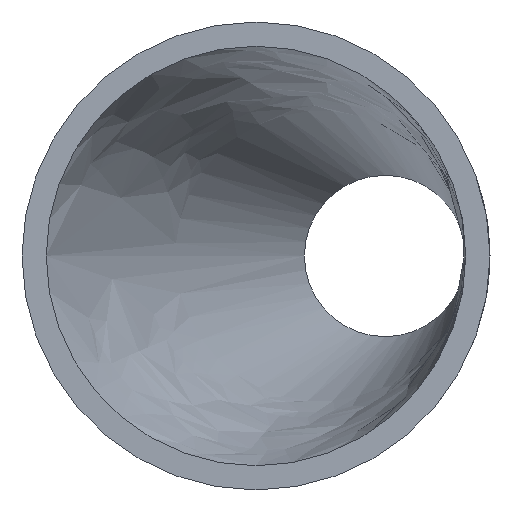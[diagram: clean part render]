
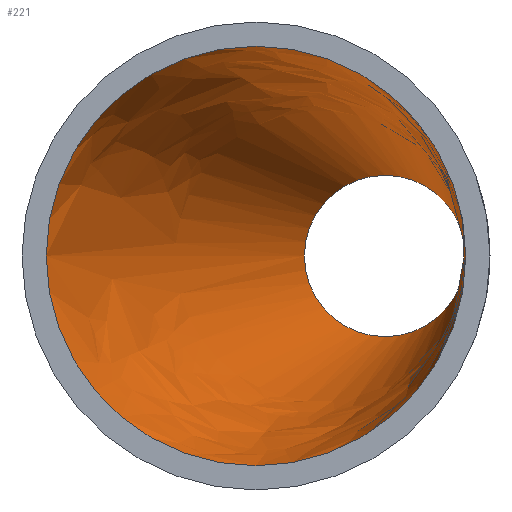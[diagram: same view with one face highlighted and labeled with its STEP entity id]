
A CAD part, left-side view. The second image highlights one B-rep face of the part: STEP entity #221.
In plain terms, the highlighted free-form (B-spline) face has degree [14, 1] with [15, 2] control points.
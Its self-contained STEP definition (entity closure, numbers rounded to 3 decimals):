
#69 = PLANE('',#70);
#70 = AXIS2_PLACEMENT_3D('',#71,#72,#73);
#71 = CARTESIAN_POINT('',(0.,0.,0.));
#72 = DIRECTION('',(1.,0.,0.));
#73 = DIRECTION('',(0.,1.,0.));
#118 = PLANE('',#119);
#119 = AXIS2_PLACEMENT_3D('',#120,#121,#122);
#120 = CARTESIAN_POINT('',(44.,-8.,0.));
#121 = DIRECTION('',(1.,0.,0.));
#122 = DIRECTION('',(0.,1.,0.));
#137 = EDGE_CURVE('',#138,#138,#140,.T.);
#138 = VERTEX_POINT('',#139);
#139 = CARTESIAN_POINT('',(0.,13.,0.));
#140 = SURFACE_CURVE('',#141,(#146,#153),.PCURVE_S1.);
#141 = CIRCLE('',#142,13.);
#142 = AXIS2_PLACEMENT_3D('',#143,#144,#145);
#143 = CARTESIAN_POINT('',(0.,0.,0.));
#144 = DIRECTION('',(1.,0.,0.));
#145 = DIRECTION('',(0.,1.,0.));
#146 = PCURVE('',#69,#147);
#147 = DEFINITIONAL_REPRESENTATION('',(#148),#152);
#148 = CIRCLE('',#149,13.);
#149 = AXIS2_PLACEMENT_2D('',#150,#151);
#150 = CARTESIAN_POINT('',(0.,0.));
#151 = DIRECTION('',(1.,0.));
#152 = ( GEOMETRIC_REPRESENTATION_CONTEXT(2) 
PARAMETRIC_REPRESENTATION_CONTEXT() REPRESENTATION_CONTEXT('2D SPACE',''
  ) );
#153 = PCURVE('',#154,#185);
#154 = B_SPLINE_SURFACE_WITH_KNOTS('',14,1,(
    (#155,#156)
    ,(#157,#158)
    ,(#159,#160)
    ,(#161,#162)
    ,(#163,#164)
    ,(#165,#166)
    ,(#167,#168)
    ,(#169,#170)
    ,(#171,#172)
    ,(#173,#174)
    ,(#175,#176)
    ,(#177,#178)
    ,(#179,#180)
    ,(#181,#182)
    ,(#183,#184
    )),.UNSPECIFIED.,.T.,.F.,.F.,(15,15),(2,2),(0.,6.283),(0.,1.
    ),.PIECEWISE_BEZIER_KNOTS.);
#155 = CARTESIAN_POINT('',(0.,13.,0.));
#156 = CARTESIAN_POINT('',(44.,-3.,0.));
#157 = CARTESIAN_POINT('',(0.,13.,5.834));
#158 = CARTESIAN_POINT('',(44.,-3.,
    2.244));
#159 = CARTESIAN_POINT('',(0.,10.18,11.669));
#160 = CARTESIAN_POINT('',(44.,-4.085,
    4.488));
#161 = CARTESIAN_POINT('',(0.,4.54,16.027));
#162 = CARTESIAN_POINT('',(44.,-6.254,
    6.164));
#163 = CARTESIAN_POINT('',(0.,-3.076,17.432));
#164 = CARTESIAN_POINT('',(44.,-9.183,
    6.704));
#165 = CARTESIAN_POINT('',(0.,-10.982,14.937));
#166 = CARTESIAN_POINT('',(44.,-12.224,
    5.745));
#167 = CARTESIAN_POINT('',(0.,-17.018,8.657));
#168 = CARTESIAN_POINT('',(44.,-14.545,
    3.329));
#169 = CARTESIAN_POINT('',(0.,-19.29,0.));
#170 = CARTESIAN_POINT('',(44.,-15.419,
    0.));
#171 = CARTESIAN_POINT('',(0.,-17.018,-8.657));
#172 = CARTESIAN_POINT('',(44.,-14.545,
    -3.329));
#173 = CARTESIAN_POINT('',(0.,-10.982,-14.937));
#174 = CARTESIAN_POINT('',(44.,-12.224,
    -5.745));
#175 = CARTESIAN_POINT('',(0.,-3.076,-17.432));
#176 = CARTESIAN_POINT('',(44.,-9.183,
    -6.704));
#177 = CARTESIAN_POINT('',(0.,4.54,-16.027));
#178 = CARTESIAN_POINT('',(44.,-6.254,
    -6.164));
#179 = CARTESIAN_POINT('',(0.,10.18,-11.669));
#180 = CARTESIAN_POINT('',(44.,-4.085,
    -4.488));
#181 = CARTESIAN_POINT('',(0.,13.,-5.834));
#182 = CARTESIAN_POINT('',(44.,-3.,
    -2.244));
#183 = CARTESIAN_POINT('',(0.,13.,0.));
#184 = CARTESIAN_POINT('',(44.,-3.,0.));
#185 = DEFINITIONAL_REPRESENTATION('',(#186),#190);
#186 = LINE('',#187,#188);
#187 = CARTESIAN_POINT('',(0.,0.));
#188 = VECTOR('',#189,1.);
#189 = DIRECTION('',(1.,0.));
#190 = ( GEOMETRIC_REPRESENTATION_CONTEXT(2) 
PARAMETRIC_REPRESENTATION_CONTEXT() REPRESENTATION_CONTEXT('2D SPACE',''
  ) );
#198 = EDGE_CURVE('',#199,#199,#201,.T.);
#199 = VERTEX_POINT('',#200);
#200 = CARTESIAN_POINT('',(44.,-3.,0.));
#201 = SURFACE_CURVE('',#202,(#207,#214),.PCURVE_S1.);
#202 = CIRCLE('',#203,5.);
#203 = AXIS2_PLACEMENT_3D('',#204,#205,#206);
#204 = CARTESIAN_POINT('',(44.,-8.,0.));
#205 = DIRECTION('',(1.,0.,0.));
#206 = DIRECTION('',(0.,1.,0.));
#207 = PCURVE('',#118,#208);
#208 = DEFINITIONAL_REPRESENTATION('',(#209),#213);
#209 = CIRCLE('',#210,5.);
#210 = AXIS2_PLACEMENT_2D('',#211,#212);
#211 = CARTESIAN_POINT('',(0.,0.));
#212 = DIRECTION('',(1.,0.));
#213 = ( GEOMETRIC_REPRESENTATION_CONTEXT(2) 
PARAMETRIC_REPRESENTATION_CONTEXT() REPRESENTATION_CONTEXT('2D SPACE',''
  ) );
#214 = PCURVE('',#154,#215);
#215 = DEFINITIONAL_REPRESENTATION('',(#216),#220);
#216 = LINE('',#217,#218);
#217 = CARTESIAN_POINT('',(0.,1.));
#218 = VECTOR('',#219,1.);
#219 = DIRECTION('',(1.,0.));
#220 = ( GEOMETRIC_REPRESENTATION_CONTEXT(2) 
PARAMETRIC_REPRESENTATION_CONTEXT() REPRESENTATION_CONTEXT('2D SPACE',''
  ) );
#221 = ADVANCED_FACE('',(#222),#154,.F.);
#222 = FACE_BOUND('',#223,.F.);
#223 = EDGE_LOOP('',(#224,#244,#245,#246));
#224 = ORIENTED_EDGE('',*,*,#225,.F.);
#225 = EDGE_CURVE('',#138,#199,#226,.T.);
#226 = SEAM_CURVE('',#227,(#230,#237),.PCURVE_S1.);
#227 = B_SPLINE_CURVE_WITH_KNOTS('',1,(#228,#229),.UNSPECIFIED.,.F.,.F.,
  (2,2),(0.,1.),.PIECEWISE_BEZIER_KNOTS.);
#228 = CARTESIAN_POINT('',(0.,13.,0.));
#229 = CARTESIAN_POINT('',(44.,-3.,0.));
#230 = PCURVE('',#154,#231);
#231 = DEFINITIONAL_REPRESENTATION('',(#232),#236);
#232 = LINE('',#233,#234);
#233 = CARTESIAN_POINT('',(0.,0.));
#234 = VECTOR('',#235,1.);
#235 = DIRECTION('',(0.,1.));
#236 = ( GEOMETRIC_REPRESENTATION_CONTEXT(2) 
PARAMETRIC_REPRESENTATION_CONTEXT() REPRESENTATION_CONTEXT('2D SPACE',''
  ) );
#237 = PCURVE('',#154,#238);
#238 = DEFINITIONAL_REPRESENTATION('',(#239),#243);
#239 = LINE('',#240,#241);
#240 = CARTESIAN_POINT('',(6.283,0.));
#241 = VECTOR('',#242,1.);
#242 = DIRECTION('',(0.,1.));
#243 = ( GEOMETRIC_REPRESENTATION_CONTEXT(2) 
PARAMETRIC_REPRESENTATION_CONTEXT() REPRESENTATION_CONTEXT('2D SPACE',''
  ) );
#244 = ORIENTED_EDGE('',*,*,#137,.T.);
#245 = ORIENTED_EDGE('',*,*,#225,.T.);
#246 = ORIENTED_EDGE('',*,*,#198,.F.);
